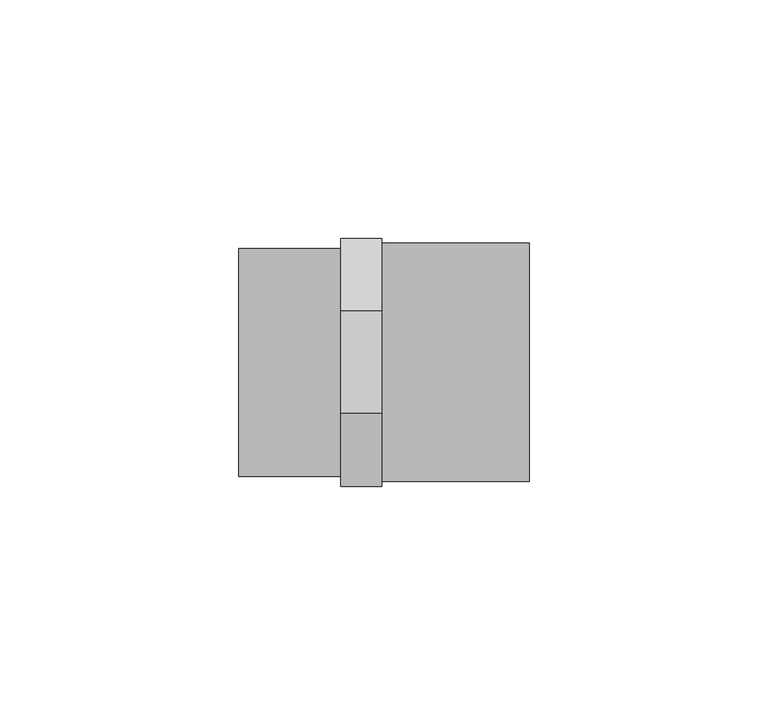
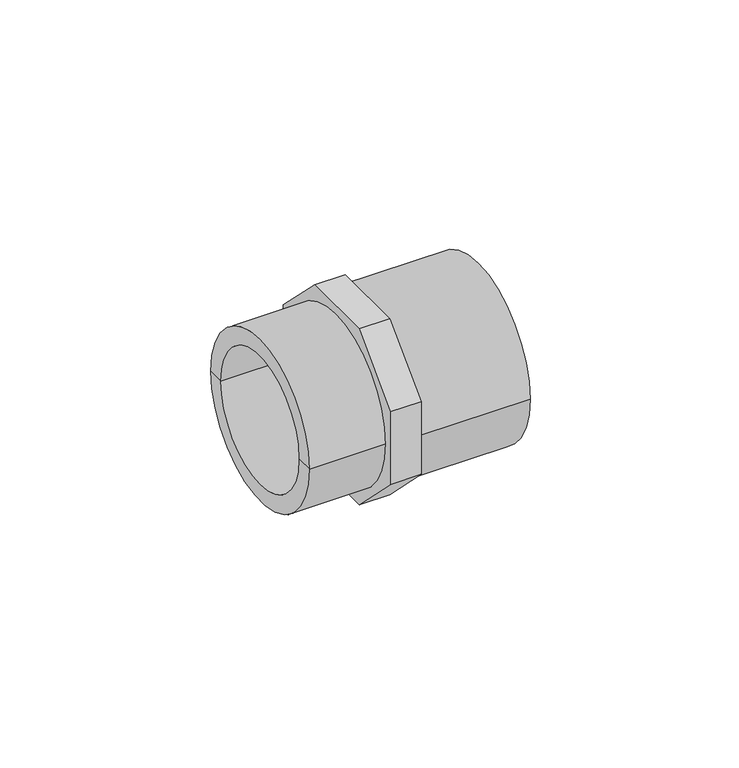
"""IFC4 building model written with IfcOpenShell, lengths in millimetres: pipe fitting geometry, Durapipe_PipeFitting_PVC_MaleThreadedAdaptors : 50 x 40 x G1-1⁄2."""

from ifc_helpers import new_model, si_unit, point, frame, origin, origin_2d, place, context, project, spatial, polyline, circle_curve, trimmed, segment, composite_curve, outline, extrude, source, transform, mapped, element, save
from ifc_brep_helpers import plane_surface, cylinder_surface, revolved_surface, advanced_brep


def pipe_fitting_d2d7d88c(model_context):
    return source(origin(), model_context, "Body", "SolidModel", [
        extrude(outline(polyline([(26.0, 10.7695526), (26.0, -10.7695526), (10.7695526, -26.0), (-10.7695526, -26.0), (-26.0, -10.7695526), (-26.0, 10.7695526), (-10.7695526, 26.0), (10.7695526, 26.0), (26.0, 10.7695526)]), holes=[composite_curve([segment(trimmed(circle_curve(origin_2d(), 19.0), [point((19.0, 0.0))], [point((-19.0, 0.0))], True, "CARTESIAN"), True, "CONTINUOUS"), segment(trimmed(circle_curve(origin_2d(), 19.0), [point((-19.0, 0.0))], [point((19.0, 0.0))], True, "CARTESIAN"), True, "CONTINUOUS")], self_intersect=False)]), frame((-8.6, 0.0, 0.0), z_axis=(1.0, 0.0, 0.0), x_axis=(0.0, 1.0, 0.0)), (0.0, 0.0, 1.0), 8.6),
        advanced_brep(
        [(0.0, -25.0, 0.0), (0.0, 25.0, 0.0), (31.0, 25.0, 0.0), (31.0, -25.0, 0.0), (31.0, 20.0, 0.0), (31.0, -20.0, 0.0), (0.0, 0.0, 0.0), (5.0, 20.0, 0.0), (5.0, -20.0, 0.0), (5.0, 0.0, 0.0)],
        [
            (0, 1, circle_curve(frame((0.0, 0.0, 0.0), z_axis=(1.0, 0.0, 0.0), x_axis=(0.0, 1.0, 0.0)), 25.0)),
            (1, 2),
            (2, 3, circle_curve(frame((31.0, 0.0, 0.0), z_axis=(-1.0, 0.0, 0.0), x_axis=(0.0, 1.0, 0.0)), 25.0)),
            (3, 0),
            (1, 0, circle_curve(frame((0.0, 0.0, 0.0), z_axis=(1.0, 0.0, 0.0), x_axis=(0.0, 1.0, 0.0)), 25.0)),
            (3, 2, circle_curve(frame((31.0, 0.0, 0.0), z_axis=(-1.0, 0.0, 0.0), x_axis=(0.0, 1.0, 0.0)), 25.0)),
            (2, 4),
            (4, 5, circle_curve(frame((31.0, 0.0, 0.0), z_axis=(-1.0, 0.0, 0.0), x_axis=(0.0, 1.0, 0.0)), 20.0)),
            (5, 3),
            (5, 4, circle_curve(frame((31.0, 0.0, 0.0), z_axis=(-1.0, 0.0, 0.0), x_axis=(0.0, 1.0, 0.0)), 20.0)),
            (0, 6),
            (6, 1),
            (7, 8, circle_curve(frame((5.0, 0.0, 0.0), z_axis=(-1.0, 0.0, 0.0), x_axis=(0.0, 1.0, 0.0)), 20.0)),
            (8, 5),
            (4, 7),
            (8, 7, circle_curve(frame((5.0, 0.0, 0.0), z_axis=(-1.0, 0.0, 0.0), x_axis=(0.0, 1.0, 0.0)), 20.0)),
            (7, 9),
            (9, 8),
        ],
        [
            cylinder_surface(frame((432.4572068, 0.0, 0.0), z_axis=(-1.0, 0.0, 0.0), x_axis=(0.0, 1.0, 0.0)), 25.0),
            plane_surface(frame((31.0, 0.0, 0.0), z_axis=(1.0, 0.0, 0.0), x_axis=(0.0, 1.0, 0.0))),
            plane_surface(frame((0.0, 0.0, 0.0), z_axis=(-1.0, 0.0, 0.0), x_axis=(0.0, 1.0, 0.0))),
            revolved_surface(polyline([(5.0, 20.0, 0.0), (31.0, 20.0, 0.0)]), (44.5575137, 0.0, 0.0), (-1.0, 0.0, 0.0)),
            plane_surface(frame((5.0, 0.0, 0.0), z_axis=(1.0, 0.0, 0.0), x_axis=(0.0, 1.0, 0.0))),
        ],
        [
            (0, [[1, 2, 3, 4]]),
            (0, [[-2, 5, -4, 6]]),
            (1, [[-3, 7, 8, 9]]),
            (1, [[-6, -9, 10, -7]]),
            (2, [[-1, 11, 12]]),
            (2, [[-5, -12, -11]]),
            (3, [[13, 14, -8, 15]]),
            (3, [[16, -15, -10, -14]]),
            (4, [[-13, 17, 18]]),
            (4, [[-16, -18, -17]]),
        ],
    ),
        advanced_brep(
        [(-8.6, -19.0, 0.0), (-8.6, 19.0, 0.0), (-30.0, 19.0, 0.0), (-30.0, -19.0, 0.0), (-8.6, -23.9, 0.0), (-8.6, 23.9, 0.0), (-30.0, -23.9, 0.0), (-30.0, 23.9, 0.0)],
        [
            (0, 1, circle_curve(frame((-8.6, 0.0, 0.0), z_axis=(1.0, 0.0, 0.0), x_axis=(0.0, 1.0, 0.0)), 19.0)),
            (1, 2),
            (2, 3, circle_curve(frame((-30.0, 0.0, 0.0), z_axis=(-1.0, 0.0, 0.0), x_axis=(0.0, 1.0, 0.0)), 19.0)),
            (3, 0),
            (1, 0, circle_curve(frame((-8.6, 0.0, 0.0), z_axis=(1.0, 0.0, 0.0), x_axis=(0.0, 1.0, 0.0)), 19.0)),
            (3, 2, circle_curve(frame((-30.0, 0.0, 0.0), z_axis=(-1.0, 0.0, 0.0), x_axis=(0.0, 1.0, 0.0)), 19.0)),
            (4, 5, circle_curve(frame((-8.6, 0.0, 0.0), z_axis=(1.0, 0.0, 0.0), x_axis=(0.0, 1.0, 0.0)), 23.9)),
            (5, 1),
            (0, 4),
            (5, 4, circle_curve(frame((-8.6, 0.0, 0.0), z_axis=(1.0, 0.0, 0.0), x_axis=(0.0, 1.0, 0.0)), 23.9)),
            (6, 7, circle_curve(frame((-30.0, 0.0, 0.0), z_axis=(1.0, 0.0, 0.0), x_axis=(0.0, 1.0, 0.0)), 23.9)),
            (7, 5),
            (4, 6),
            (7, 6, circle_curve(frame((-30.0, 0.0, 0.0), z_axis=(1.0, 0.0, 0.0), x_axis=(0.0, 1.0, 0.0)), 23.9)),
            (2, 7),
            (6, 3),
        ],
        [
            revolved_surface(polyline([(-30.0, 19.0, 0.0), (-8.600000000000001, 19.0, 0.0)]), (-45.0, 0.0, 0.0), (-1.0, 0.0, 0.0)),
            plane_surface(frame((-8.6, 0.0, 0.0), z_axis=(1.0, 0.0, 0.0), x_axis=(0.0, 1.0, 0.0))),
            cylinder_surface(frame((-45.0, 0.0, 0.0), z_axis=(-1.0, 0.0, 0.0), x_axis=(0.0, 1.0, 0.0)), 23.9),
            plane_surface(frame((-30.0, 0.0, 0.0), z_axis=(-1.0, 0.0, 0.0), x_axis=(0.0, 1.0, 0.0))),
        ],
        [
            (0, [[1, 2, 3, 4]]),
            (0, [[5, -4, 6, -2]]),
            (1, [[7, 8, -1, 9]]),
            (1, [[10, -9, -5, -8]]),
            (2, [[11, 12, -7, 13]]),
            (2, [[14, -13, -10, -12]]),
            (3, [[-3, 15, -11, 16]]),
            (3, [[-6, -16, -14, -15]]),
        ],
    ),
    ])


if __name__ == "__main__":
    model = new_model("IFC4")
    model_context = context("Model", 3, world=origin())
    ifc_project = project(units=[si_unit("LENGTHUNIT", "METRE", prefix="MILLI")], contexts=[model_context])
    site = spatial("IfcSite", under=ifc_project)
    building = spatial("IfcBuilding", under=site)
    placement = place(None, origin())
    pipe_fitting_shape = pipe_fitting_d2d7d88c(model_context)
    element("IfcPipeFitting", 1, ObjectType="Durapipe_PipeFitting_PVC_MaleThreadedAdaptors : 50 x 40 x G1-1⁄2", at=placement, inside=building, context=model_context, shape_type="MappedRepresentation", body=[
        mapped(pipe_fitting_shape, transform((0.0, 0.0, 0.0), x_axis=(1.0, 0.0, 0.0), y_axis=(0.0, 1.0, 0.0), z_axis=(0.0, 0.0, 1.0))),
    ])
    save(model, "model.ifc")
